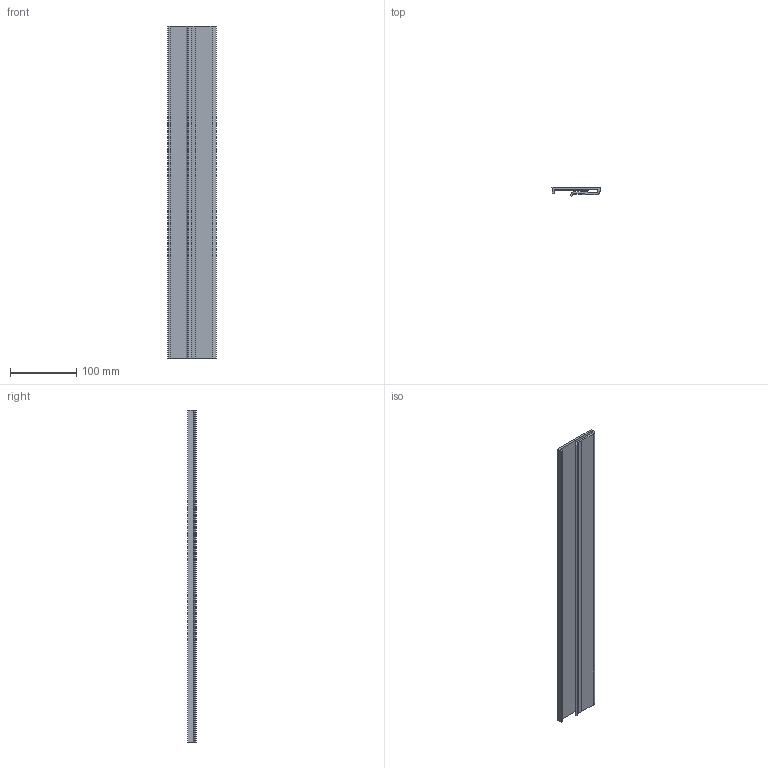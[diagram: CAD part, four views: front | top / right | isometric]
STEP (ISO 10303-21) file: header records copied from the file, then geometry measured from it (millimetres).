
FILE_DESCRIPTION (( 'STEP AP214' ), '1' );
FILE_NAME ('R4PG.STEP', '2011-05-09T07:04:46', ( '.' ), ( '' ), 'SwSTEP 2.0', 'SolidWorks 2010', '' );
FILE_SCHEMA (( 'AUTOMOTIVE_DESIGN' ));
Length unit declared in the file: millimetre
Products named in the file (1): R4PG
Bounding box: 72.31 x 13.09 x 500 mm (x, y, z)
Volume: 200752.4 mm3; surface area: 129622 mm2
Topology: 1 solids, 1 shells, 23 faces, 63 edges, 42 vertices
Faces by surface type: plane 15, cylinder 8
Entity records: 767 total; most frequent: CARTESIAN_POINT 129, DIRECTION 127, ORIENTED_EDGE 126, EDGE_CURVE 63, LINE 47, VECTOR 47, VERTEX_POINT 42, AXIS2_PLACEMENT_3D 40
